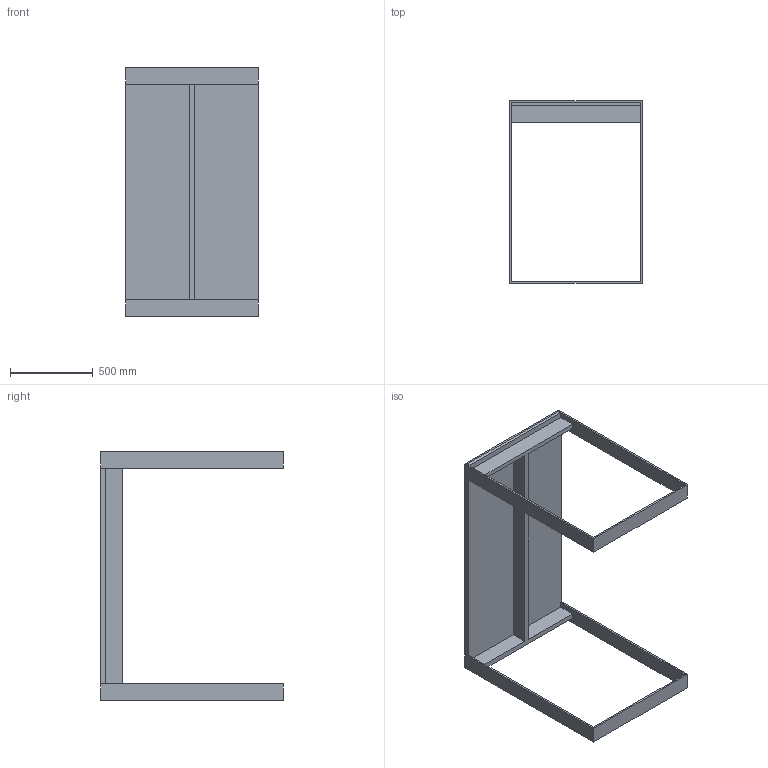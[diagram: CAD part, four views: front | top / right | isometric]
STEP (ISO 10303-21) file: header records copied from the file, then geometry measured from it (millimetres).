
FILE_DESCRIPTION (( 'STEP AP203' ), '1' );
FILE_NAME ('Haag 1500x800x1100.STEP', '2019-04-02T18:09:49', ( '' ), ( '' ), 'SwSTEP 2.0', 'SolidWorks 2019', '' );
FILE_SCHEMA (( 'CONFIG_CONTROL_DESIGN' ));
Length unit declared in the file: millimetre
Products named in the file (1): Haag 1500x800x1100
Bounding box: 800 x 1100 x 1500 mm (x, y, z)
Volume: 50630000 mm3; surface area: 4948200 mm2
Topology: 4 solids, 4 shells, 48 faces, 120 edges, 80 vertices
Faces by surface type: plane 48
Entity records: 1483 total; most frequent: CARTESIAN_POINT 249, ORIENTED_EDGE 240, DIRECTION 218, EDGE_CURVE 120, LINE 120, VECTOR 120, VERTEX_POINT 80, EDGE_LOOP 52
